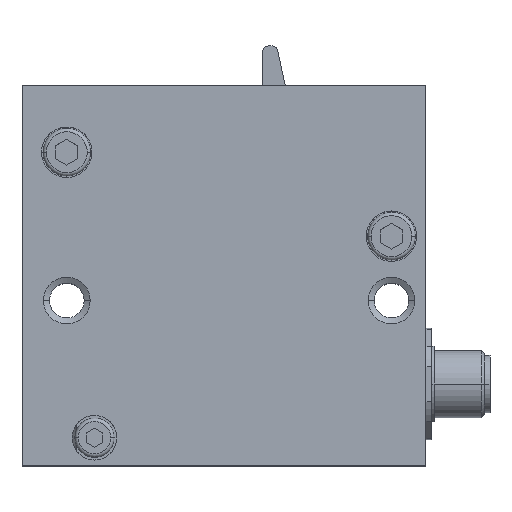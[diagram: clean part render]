
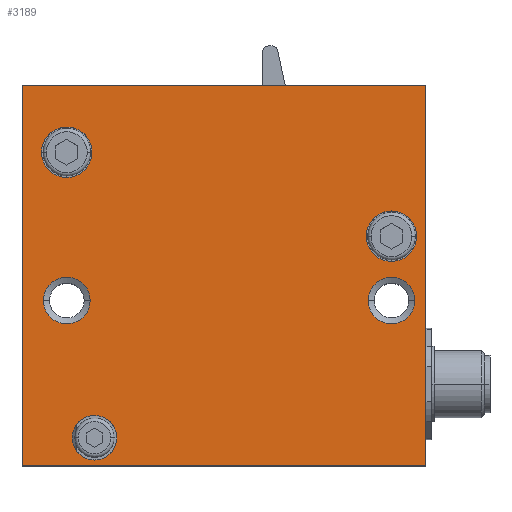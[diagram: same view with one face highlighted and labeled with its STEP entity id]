
A CAD part, top view. The second image highlights one B-rep face of the part: STEP entity #3189.
In plain terms, the highlighted planar face has unit normal (0, 0, 1).
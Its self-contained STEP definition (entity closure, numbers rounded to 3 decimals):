
#21 = ORIENTED_EDGE ( 'NONE', *, *, #3316, .T. ) ;
#47 = EDGE_CURVE ( 'NONE', #411, #2072, #282, .T. ) ;
#68 = EDGE_LOOP ( 'NONE', ( #1681, #1532 ) ) ;
#115 = DIRECTION ( 'NONE',  ( 1., 0., 0. ) ) ;
#139 = CARTESIAN_POINT ( 'NONE',  ( 25.825, -4.5, 16.5 ) ) ;
#144 = VERTEX_POINT ( 'NONE', #1813 ) ;
#205 = CARTESIAN_POINT ( 'NONE',  ( -28., -4.5, 16.5 ) ) ;
#240 = VECTOR ( 'NONE', #4281, 1000. ) ;
#282 = CIRCLE ( 'NONE', #2246, 4. ) ;
#298 = EDGE_CURVE ( 'NONE', #2656, #3058, #969, .T. ) ;
#341 = VERTEX_POINT ( 'NONE', #2565 ) ;
#390 = EDGE_LOOP ( 'NONE', ( #2025, #599 ) ) ;
#397 = EDGE_CURVE ( 'NONE', #1955, #3926, #430, .T. ) ;
#411 = VERTEX_POINT ( 'NONE', #1890 ) ;
#412 = CARTESIAN_POINT ( 'NONE',  ( 30., -4.5, 16.5 ) ) ;
#417 = DIRECTION ( 'NONE',  ( 0., 0., 1. ) ) ;
#420 = DIRECTION ( 'NONE',  ( 1., 0., 0. ) ) ;
#430 = CIRCLE ( 'NONE', #4471, 4.5 ) ;
#490 = CIRCLE ( 'NONE', #1706, 4.5 ) ;
#547 = EDGE_CURVE ( 'NONE', #3058, #2656, #4260, .T. ) ;
#588 = FACE_OUTER_BOUND ( 'NONE', #4029, .T. ) ;
#599 = ORIENTED_EDGE ( 'NONE', *, *, #547, .F. ) ;
#614 = CARTESIAN_POINT ( 'NONE',  ( 36., -6., 16.5 ) ) ;
#695 = FACE_BOUND ( 'NONE', #68, .T. ) ;
#724 = DIRECTION ( 'NONE',  ( 0., 0., 1. ) ) ;
#812 = LINE ( 'NONE', #3245, #2652 ) ;
#830 = ORIENTED_EDGE ( 'NONE', *, *, #2693, .T. ) ;
#895 = CIRCLE ( 'NONE', #2481, 4.5 ) ;
#905 = ORIENTED_EDGE ( 'NONE', *, *, #4459, .T. ) ;
#910 = ORIENTED_EDGE ( 'NONE', *, *, #1623, .F. ) ;
#913 = CARTESIAN_POINT ( 'NONE',  ( 34.5, 7., 16.5 ) ) ;
#914 = DIRECTION ( 'NONE',  ( 0., 0., 1. ) ) ;
#951 = EDGE_CURVE ( 'NONE', #2072, #411, #971, .T. ) ;
#968 = DIRECTION ( 'NONE',  ( 1., 0., 0. ) ) ;
#969 = CIRCLE ( 'NONE', #1931, 4.175 ) ;
#971 = CIRCLE ( 'NONE', #1169, 4. ) ;
#1029 = CIRCLE ( 'NONE', #3500, 4.175 ) ;
#1104 = VERTEX_POINT ( 'NONE', #1446 ) ;
#1169 = AXIS2_PLACEMENT_3D ( 'NONE', #1962, #4034, #2390 ) ;
#1193 = CARTESIAN_POINT ( 'NONE',  ( 25.5, 7., 16.5 ) ) ;
#1217 = CIRCLE ( 'NONE', #3964, 4.175 ) ;
#1278 = EDGE_CURVE ( 'NONE', #144, #3859, #3249, .T. ) ;
#1446 = CARTESIAN_POINT ( 'NONE',  ( 36., -34., 16.5 ) ) ;
#1461 = DIRECTION ( 'NONE',  ( 1., 0., 0. ) ) ;
#1496 = CARTESIAN_POINT ( 'NONE',  ( -32.5, 22., 16.5 ) ) ;
#1524 = CARTESIAN_POINT ( 'NONE',  ( -28., -4.5, 16.5 ) ) ;
#1527 = FACE_BOUND ( 'NONE', #3812, .T. ) ;
#1532 = ORIENTED_EDGE ( 'NONE', *, *, #2790, .F. ) ;
#1558 = DIRECTION ( 'NONE',  ( 1., 0., 0. ) ) ;
#1623 = EDGE_CURVE ( 'NONE', #341, #3013, #1029, .T. ) ;
#1644 = LINE ( 'NONE', #3325, #3273 ) ;
#1672 = CARTESIAN_POINT ( 'NONE',  ( -32.175, -4.5, 16.5 ) ) ;
#1674 = ORIENTED_EDGE ( 'NONE', *, *, #2368, .F. ) ;
#1681 = ORIENTED_EDGE ( 'NONE', *, *, #397, .F. ) ;
#1689 = ORIENTED_EDGE ( 'NONE', *, *, #3857, .F. ) ;
#1696 = ORIENTED_EDGE ( 'NONE', *, *, #1800, .T. ) ;
#1706 = AXIS2_PLACEMENT_3D ( 'NONE', #3602, #4259, #2885 ) ;
#1800 = EDGE_CURVE ( 'NONE', #3841, #4075, #1644, .T. ) ;
#1806 = CARTESIAN_POINT ( 'NONE',  ( 34.175, -4.5, 16.5 ) ) ;
#1810 = VECTOR ( 'NONE', #3046, 1000. ) ;
#1813 = CARTESIAN_POINT ( 'NONE',  ( -23.5, 22., 16.5 ) ) ;
#1850 = ORIENTED_EDGE ( 'NONE', *, *, #1278, .F. ) ;
#1864 = EDGE_LOOP ( 'NONE', ( #3625, #4338 ) ) ;
#1871 = CARTESIAN_POINT ( 'NONE',  ( -28., 22., 16.5 ) ) ;
#1890 = CARTESIAN_POINT ( 'NONE',  ( -27.05, -29., 16.5 ) ) ;
#1928 = DIRECTION ( 'NONE',  ( 0., 0., 1. ) ) ;
#1931 = AXIS2_PLACEMENT_3D ( 'NONE', #2735, #3567, #1558 ) ;
#1955 = VERTEX_POINT ( 'NONE', #913 ) ;
#1962 = CARTESIAN_POINT ( 'NONE',  ( -23.05, -29., 16.5 ) ) ;
#2025 = ORIENTED_EDGE ( 'NONE', *, *, #298, .F. ) ;
#2026 = CARTESIAN_POINT ( 'NONE',  ( 36., 34., 16.5 ) ) ;
#2072 = VERTEX_POINT ( 'NONE', #3556 ) ;
#2133 = DIRECTION ( 'NONE',  ( 1., 0., 0. ) ) ;
#2157 = CARTESIAN_POINT ( 'NONE',  ( -36., 34., 16.5 ) ) ;
#2176 = DIRECTION ( 'NONE',  ( 0., 0., 1. ) ) ;
#2196 = AXIS2_PLACEMENT_3D ( 'NONE', #2264, #914, #3339 ) ;
#2202 = DIRECTION ( 'NONE',  ( 0., 0., 1. ) ) ;
#2246 = AXIS2_PLACEMENT_3D ( 'NONE', #4207, #724, #1461 ) ;
#2258 = DIRECTION ( 'NONE',  ( 0., 0., 1. ) ) ;
#2264 = CARTESIAN_POINT ( 'NONE',  ( 0., 0., 16.5 ) ) ;
#2368 = EDGE_CURVE ( 'NONE', #3013, #341, #1217, .T. ) ;
#2390 = DIRECTION ( 'NONE',  ( 1., 0., 0. ) ) ;
#2417 = DIRECTION ( 'NONE',  ( 0., 0., 1. ) ) ;
#2429 = FACE_BOUND ( 'NONE', #1864, .T. ) ;
#2481 = AXIS2_PLACEMENT_3D ( 'NONE', #4246, #2176, #115 ) ;
#2531 = FACE_BOUND ( 'NONE', #3588, .T. ) ;
#2565 = CARTESIAN_POINT ( 'NONE',  ( -23.825, -4.5, 16.5 ) ) ;
#2652 = VECTOR ( 'NONE', #3421, 1000. ) ;
#2656 = VERTEX_POINT ( 'NONE', #1806 ) ;
#2683 = AXIS2_PLACEMENT_3D ( 'NONE', #1871, #417, #2133 ) ;
#2693 = EDGE_CURVE ( 'NONE', #4075, #1104, #812, .T. ) ;
#2735 = CARTESIAN_POINT ( 'NONE',  ( 30., -4.5, 16.5 ) ) ;
#2790 = EDGE_CURVE ( 'NONE', #3926, #1955, #490, .T. ) ;
#2846 = LINE ( 'NONE', #614, #1810 ) ;
#2885 = DIRECTION ( 'NONE',  ( 1., 0., 0. ) ) ;
#2974 = CARTESIAN_POINT ( 'NONE',  ( 30., 7., 16.5 ) ) ;
#2992 = PLANE ( 'NONE',  #2196 ) ;
#3013 = VERTEX_POINT ( 'NONE', #1672 ) ;
#3046 = DIRECTION ( 'NONE',  ( 0., 1., 0. ) ) ;
#3058 = VERTEX_POINT ( 'NONE', #139 ) ;
#3189 = ADVANCED_FACE ( 'NONE', ( #2531, #3358, #695, #2429, #1527, #588 ), #2992, .T. ) ;
#3201 = DIRECTION ( 'NONE',  ( 1., 0., 0. ) ) ;
#3245 = CARTESIAN_POINT ( 'NONE',  ( -36., -34., 16.5 ) ) ;
#3249 = CIRCLE ( 'NONE', #2683, 4.5 ) ;
#3273 = VECTOR ( 'NONE', #4368, 1000. ) ;
#3316 = EDGE_CURVE ( 'NONE', #1104, #4180, #2846, .T. ) ;
#3325 = CARTESIAN_POINT ( 'NONE',  ( -36., 34., 16.5 ) ) ;
#3339 = DIRECTION ( 'NONE',  ( 1., 0., 0. ) ) ;
#3358 = FACE_BOUND ( 'NONE', #390, .T. ) ;
#3421 = DIRECTION ( 'NONE',  ( 1., 0., 0. ) ) ;
#3500 = AXIS2_PLACEMENT_3D ( 'NONE', #205, #1928, #968 ) ;
#3556 = CARTESIAN_POINT ( 'NONE',  ( -19.05, -29., 16.5 ) ) ;
#3567 = DIRECTION ( 'NONE',  ( 0., 0., 1. ) ) ;
#3588 = EDGE_LOOP ( 'NONE', ( #910, #1674 ) ) ;
#3602 = CARTESIAN_POINT ( 'NONE',  ( 30., 7., 16.5 ) ) ;
#3625 = ORIENTED_EDGE ( 'NONE', *, *, #951, .F. ) ;
#3803 = LINE ( 'NONE', #3953, #240 ) ;
#3812 = EDGE_LOOP ( 'NONE', ( #1850, #1689 ) ) ;
#3841 = VERTEX_POINT ( 'NONE', #2157 ) ;
#3857 = EDGE_CURVE ( 'NONE', #3859, #144, #895, .T. ) ;
#3859 = VERTEX_POINT ( 'NONE', #1496 ) ;
#3926 = VERTEX_POINT ( 'NONE', #1193 ) ;
#3953 = CARTESIAN_POINT ( 'NONE',  ( 36., 34., 16.5 ) ) ;
#3964 = AXIS2_PLACEMENT_3D ( 'NONE', #1524, #2202, #420 ) ;
#4029 = EDGE_LOOP ( 'NONE', ( #1696, #830, #21, #905 ) ) ;
#4034 = DIRECTION ( 'NONE',  ( 0., 0., 1. ) ) ;
#4075 = VERTEX_POINT ( 'NONE', #4360 ) ;
#4098 = AXIS2_PLACEMENT_3D ( 'NONE', #412, #2417, #4464 ) ;
#4180 = VERTEX_POINT ( 'NONE', #2026 ) ;
#4207 = CARTESIAN_POINT ( 'NONE',  ( -23.05, -29., 16.5 ) ) ;
#4246 = CARTESIAN_POINT ( 'NONE',  ( -28., 22., 16.5 ) ) ;
#4259 = DIRECTION ( 'NONE',  ( 0., 0., 1. ) ) ;
#4260 = CIRCLE ( 'NONE', #4098, 4.175 ) ;
#4281 = DIRECTION ( 'NONE',  ( -1., 0., 0. ) ) ;
#4338 = ORIENTED_EDGE ( 'NONE', *, *, #47, .F. ) ;
#4360 = CARTESIAN_POINT ( 'NONE',  ( -36., -34., 16.5 ) ) ;
#4368 = DIRECTION ( 'NONE',  ( 0., -1., 0. ) ) ;
#4459 = EDGE_CURVE ( 'NONE', #4180, #3841, #3803, .T. ) ;
#4464 = DIRECTION ( 'NONE',  ( 1., 0., 0. ) ) ;
#4471 = AXIS2_PLACEMENT_3D ( 'NONE', #2974, #2258, #3201 ) ;
